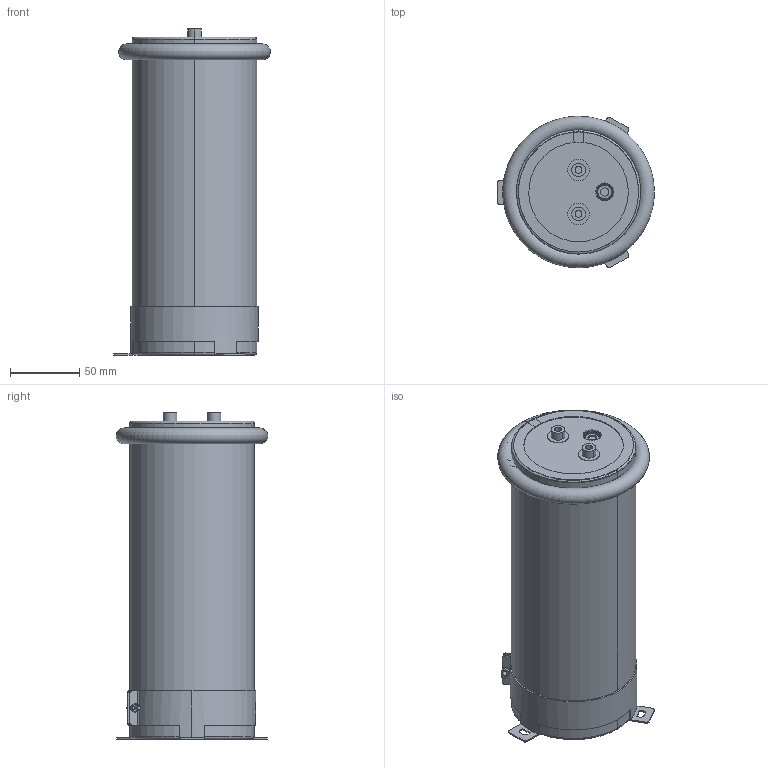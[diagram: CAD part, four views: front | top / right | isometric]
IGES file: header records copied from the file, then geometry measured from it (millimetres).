
Start section: 3D InterOp IGES (v. 2019 1.0.2), Spatial Corp. Copyright (c) 1999-2017.
Global section: file name: 90x230_Screw.igs; native system: Spatial Corp.; preprocessor: 3D InterOp ACIS/IGES; author: Noname; organization: Noname; date: 20220314.174209; units: millimetre
Bounding box: 113.34 x 109.69 x 236 mm (x, y, z)
Volume: 1807884.4 mm3; surface area: 374763.5 mm2
Topology: 9 solids, 9 shells, 352 faces, 953 edges, 591 vertices
Faces by surface type: plane 112, cylinder 110, torus 90, cone 38, sphere 2
